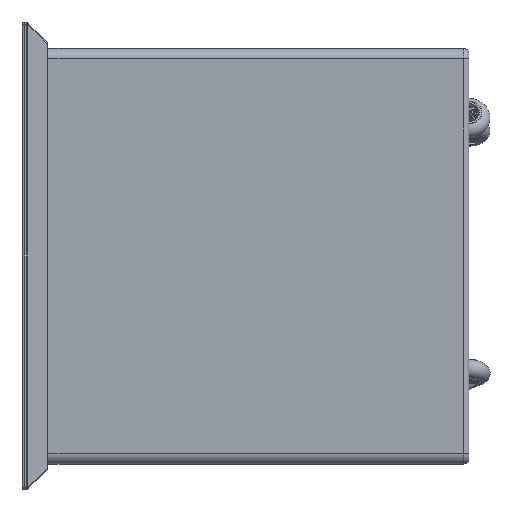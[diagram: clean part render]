
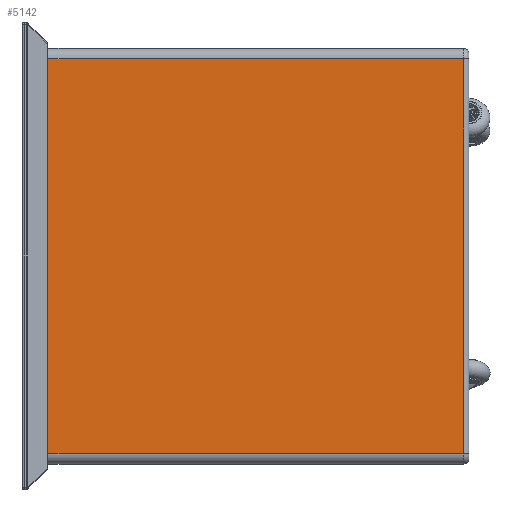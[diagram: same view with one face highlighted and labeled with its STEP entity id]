
A CAD part, left-side view. The second image highlights one B-rep face of the part: STEP entity #5142.
In plain terms, the highlighted planar face has unit normal (-1, 0, 0).
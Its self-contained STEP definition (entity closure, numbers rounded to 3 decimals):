
#463=PLANE('',#5756);
#740=FACE_OUTER_BOUND('',#1027,.T.);
#1027=EDGE_LOOP('',(#4745,#4746,#4747,#4748));
#1324=LINE('',#10983,#1628);
#1327=LINE('',#11003,#1631);
#1331=LINE('',#11017,#1635);
#1332=LINE('',#11019,#1636);
#1628=VECTOR('',#7243,10.);
#1631=VECTOR('',#7256,10.);
#1635=VECTOR('',#7272,10.);
#1636=VECTOR('',#7275,10.);
#2411=VERTEX_POINT('',#10977);
#2412=VERTEX_POINT('',#10981);
#2415=VERTEX_POINT('',#11001);
#2419=VERTEX_POINT('',#11015);
#3183=EDGE_CURVE('',#2412,#2411,#1324,.T.);
#3189=EDGE_CURVE('',#2415,#2412,#1327,.T.);
#3196=EDGE_CURVE('',#2419,#2415,#1331,.T.);
#3197=EDGE_CURVE('',#2411,#2419,#1332,.T.);
#4745=ORIENTED_EDGE('',*,*,#3183,.F.);
#4746=ORIENTED_EDGE('',*,*,#3189,.F.);
#4747=ORIENTED_EDGE('',*,*,#3196,.F.);
#4748=ORIENTED_EDGE('',*,*,#3197,.F.);
#5142=ADVANCED_FACE('',(#740),#463,.T.);
#5756=AXIS2_PLACEMENT_3D('',#11018,#7273,#7274);
#7243=DIRECTION('',(0.,0.,-1.));
#7256=DIRECTION('',(0.,-1.,0.));
#7272=DIRECTION('',(0.,0.,1.));
#7273=DIRECTION('center_axis',(-1.,0.,0.));
#7274=DIRECTION('ref_axis',(0.,0.,-1.));
#7275=DIRECTION('',(0.,1.,0.));
#10977=CARTESIAN_POINT('',(0.,25.,-389.872));
#10981=CARTESIAN_POINT('',(0.,25.,-10.));
#10983=CARTESIAN_POINT('',(0.,25.,-100.));
#11001=CARTESIAN_POINT('',(0.,425.,-10.));
#11003=CARTESIAN_POINT('',(0.,425.,-10.));
#11015=CARTESIAN_POINT('',(0.,425.,-389.872));
#11017=CARTESIAN_POINT('',(0.,425.,-300.));
#11018=CARTESIAN_POINT('Origin',(0.,425.,0.));
#11019=CARTESIAN_POINT('',(0.,425.,-389.872));
